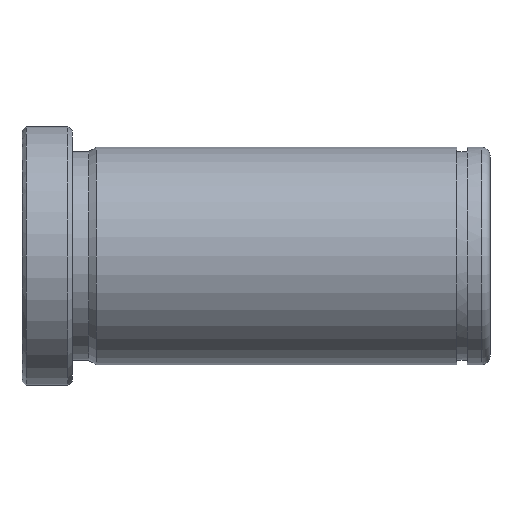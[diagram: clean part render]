
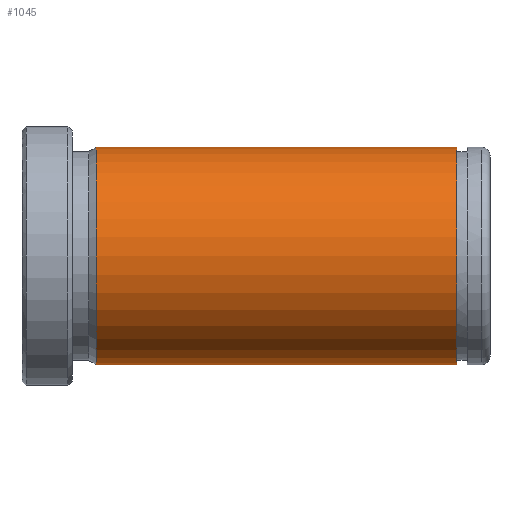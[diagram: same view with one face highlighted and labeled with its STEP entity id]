
A CAD part, front view. The second image highlights one B-rep face of the part: STEP entity #1045.
In plain terms, the highlighted cylindrical face has radius 13 mm (diameter 26 mm), a partial arc.
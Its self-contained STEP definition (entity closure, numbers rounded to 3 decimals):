
#851=CARTESIAN_POINT('Vertex',(8.866,0.,-13.)) ;
#858=CARTESIAN_POINT('Vertex',(8.866,0.,13.)) ;
#887=CARTESIAN_POINT('Axis2P3D Location',(8.866,0.,0.)) ;
#891=CARTESIAN_POINT('Vertex',(8.866,-13.,0.)) ;
#894=CARTESIAN_POINT('Axis2P3D Location',(8.866,0.,0.)) ;
#985=CARTESIAN_POINT('Line Origine',(112.,0.,13.)) ;
#989=CARTESIAN_POINT('Vertex',(52.,0.,13.)) ;
#1003=CARTESIAN_POINT('Vertex',(52.,0.,-13.)) ;
#1006=CARTESIAN_POINT('Line Origine',(112.,0.,-13.)) ;
#1020=CARTESIAN_POINT('Axis2P3D Location',(112.,0.,0.)) ;
#1025=CARTESIAN_POINT('Axis2P3D Location',(52.,0.,0.)) ;
#1029=CARTESIAN_POINT('Vertex',(52.,-13.,0.)) ;
#1032=CARTESIAN_POINT('Axis2P3D Location',(52.,0.,0.)) ;
#888=DIRECTION('Axis2P3D Direction',(1.,0.,-0.)) ;
#895=DIRECTION('Axis2P3D Direction',(1.,0.,-0.)) ;
#986=DIRECTION('Vector Direction',(-1.,0.,0.)) ;
#1007=DIRECTION('Vector Direction',(-1.,0.,0.)) ;
#1021=DIRECTION('Axis2P3D Direction',(-1.,-0.,-0.)) ;
#1022=DIRECTION('Axis2P3D XDirection',(0.,0.,-1.)) ;
#1026=DIRECTION('Axis2P3D Direction',(-1.,-0.,-0.)) ;
#1033=DIRECTION('Axis2P3D Direction',(-1.,-0.,-0.)) ;
#889=AXIS2_PLACEMENT_3D('Circle Axis2P3D',#887,#888,$) ;
#896=AXIS2_PLACEMENT_3D('Circle Axis2P3D',#894,#895,$) ;
#1023=AXIS2_PLACEMENT_3D('Cylinder Axis2P3D',#1020,#1021,#1022) ;
#1027=AXIS2_PLACEMENT_3D('Circle Axis2P3D',#1025,#1026,$) ;
#1034=AXIS2_PLACEMENT_3D('Circle Axis2P3D',#1032,#1033,$) ;
#1038=ORIENTED_EDGE('',*,*,#1010,.T.) ;
#1039=ORIENTED_EDGE('',*,*,#1031,.F.) ;
#1040=ORIENTED_EDGE('',*,*,#1036,.F.) ;
#1041=ORIENTED_EDGE('',*,*,#991,.T.) ;
#1042=ORIENTED_EDGE('',*,*,#898,.T.) ;
#1043=ORIENTED_EDGE('',*,*,#893,.T.) ;
#987=VECTOR('Line Direction',#986,1.) ;
#1008=VECTOR('Line Direction',#1007,1.) ;
#1045=ADVANCED_FACE('553-20X56',(#1044),#1024,.T.) ;
#890=CIRCLE('generated circle',#889,13.) ;
#897=CIRCLE('generated circle',#896,13.) ;
#1028=CIRCLE('generated circle',#1027,13.) ;
#1035=CIRCLE('generated circle',#1034,13.) ;
#1024=CYLINDRICAL_SURFACE('generated cylinder',#1023,13.) ;
#893=EDGE_CURVE('',#892,#852,#890,.T.) ;
#898=EDGE_CURVE('',#859,#892,#897,.T.) ;
#991=EDGE_CURVE('',#990,#859,#988,.T.) ;
#1010=EDGE_CURVE('',#852,#1004,#1009,.F.) ;
#1031=EDGE_CURVE('',#1030,#1004,#1028,.F.) ;
#1036=EDGE_CURVE('',#990,#1030,#1035,.F.) ;
#1037=EDGE_LOOP('',(#1038,#1039,#1040,#1041,#1042,#1043)) ;
#1044=FACE_OUTER_BOUND('',#1037,.T.) ;
#988=LINE('Line',#985,#987) ;
#1009=LINE('Line',#1006,#1008) ;
#852=VERTEX_POINT('',#851) ;
#859=VERTEX_POINT('',#858) ;
#892=VERTEX_POINT('',#891) ;
#990=VERTEX_POINT('',#989) ;
#1004=VERTEX_POINT('',#1003) ;
#1030=VERTEX_POINT('',#1029) ;
